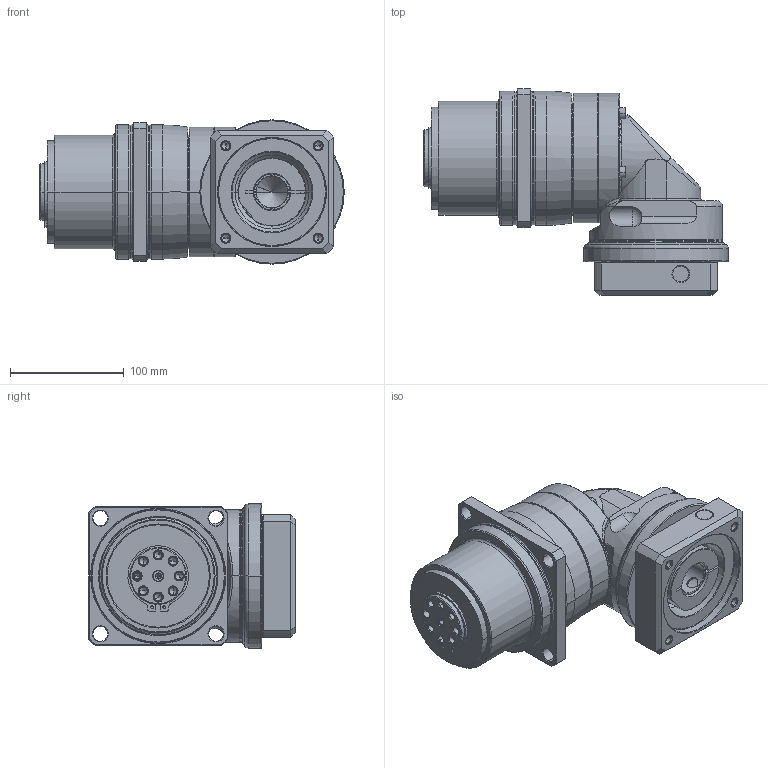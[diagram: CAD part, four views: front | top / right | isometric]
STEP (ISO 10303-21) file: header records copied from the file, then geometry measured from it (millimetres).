
FILE_DESCRIPTION((''),'2;1');
FILE_NAME('PLR120_2ST_28-P0411600101_ASM','2016-06-29T',('d00435'),(''),'PRO/ENGINEER BY PARAMETRIC TECHNOLOGY CORPORATION, 2008410','PRO/ENGINEER BY PARAMETRIC TECHNOLOGY CORPORATION, 2008410','');
FILE_SCHEMA(('CONFIG_CONTROL_DESIGN'));
Length unit declared in the file: millimetre
Products named in the file (11): P0272400001; P0366400001; 22802000029; P1356400001; P1349400001; P1017410001; P1350400201; P0411600101; P0503600008; P0713400201; PLR120_2ST_28-P0411600101_ASM
Assembly tree (10 placements, depth 2):
  PLR120_2ST_28-P0411600101_ASM
    P0272400001
    P0366400001
    22802000029
    P1356400001
    P1349400001
    P1017410001
    P1350400201
    P0411600101
    P0503600008
    P0713400201
Bounding box: 267.8 x 181.5 x 127 mm (x, y, z)
Volume: 2207329.9 mm3; surface area: 361004.3 mm2
Topology: 11 solids, 32 shells, 666 faces, 1569 edges, 941 vertices
Faces by surface type: cylinder 225, cone 192, plane 129, torus 88, bspline 30, sphere 2
Entity records: 22155 total; most frequent: CARTESIAN_POINT 6659, DIRECTION 3460, ORIENTED_EDGE 2958, EDGE_CURVE 1521, AXIS2_PLACEMENT_3D 1467, VERTEX_POINT 941, CIRCLE 800, EDGE_LOOP 764
